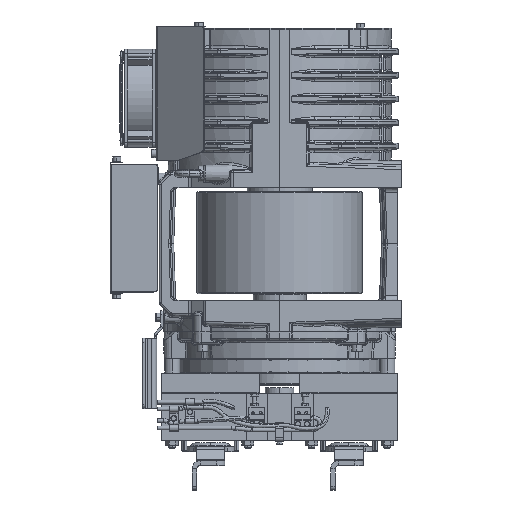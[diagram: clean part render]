
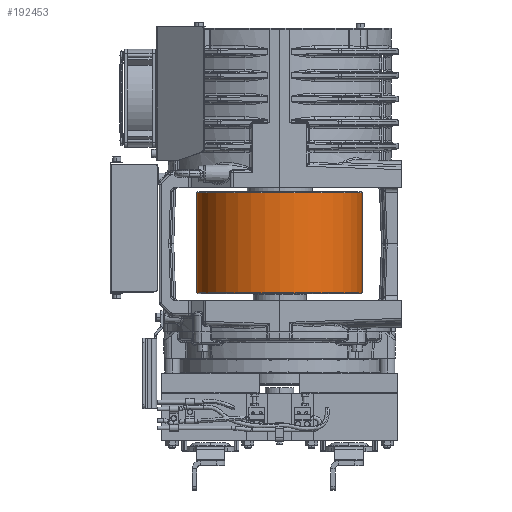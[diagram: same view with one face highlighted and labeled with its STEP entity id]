
A CAD part, left-side view. The second image highlights one B-rep face of the part: STEP entity #192453.
In plain terms, the highlighted cylindrical face has radius 101.5 mm (diameter 203 mm), a partial arc.
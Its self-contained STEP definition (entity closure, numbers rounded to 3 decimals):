
#185768=CARTESIAN_POINT('',(0.,0.,-69.));
#185769=DIRECTION('',(0.,0.,1.));
#185770=DIRECTION('',(0.,1.,0.));
#185771=AXIS2_PLACEMENT_3D('',#185768,#185769,#185770);
#185786=DIRECTION('',(0.,0.,1.));
#185787=VECTOR('',#185786,123.);
#185788=CARTESIAN_POINT('',(0.,-101.5,-69.));
#185789=LINE('',#185788,#185787);
#185790=DIRECTION('',(0.,0.,1.));
#185791=VECTOR('',#185790,123.);
#185792=CARTESIAN_POINT('',(0.,101.5,-69.));
#185793=LINE('',#185792,#185791);
#185794=CARTESIAN_POINT('',(0.,0.,54.));
#185795=DIRECTION('',(0.,0.,-1.));
#185796=DIRECTION('',(0.,-1.,0.));
#185797=AXIS2_PLACEMENT_3D('',#185794,#185795,#185796);
#189123=CARTESIAN_POINT('',(0.,101.5,54.));
#189124=VERTEX_POINT('',#189123);
#189125=CARTESIAN_POINT('',(0.,-101.5,54.));
#189126=VERTEX_POINT('',#189125);
#189127=CARTESIAN_POINT('',(0.,101.5,-69.));
#189128=CARTESIAN_POINT('',(0.,-101.5,-69.));
#189129=VERTEX_POINT('',#189127);
#189130=VERTEX_POINT('',#189128);
#192441=CARTESIAN_POINT('',(0.,0.,-77.));
#192442=DIRECTION('',(0.,0.,1.));
#192443=DIRECTION('',(0.,1.,0.));
#192444=AXIS2_PLACEMENT_3D('',#192441,#192442,#192443);
#192445=CYLINDRICAL_SURFACE('',#192444,101.5);
#192446=ORIENTED_EDGE('',*,*,#192406,.F.);
#192447=ORIENTED_EDGE('',*,*,#192436,.T.);
#192449=ORIENTED_EDGE('',*,*,#192448,.F.);
#192450=ORIENTED_EDGE('',*,*,#192432,.F.);
#192451=EDGE_LOOP('',(#192446,#192447,#192449,#192450));
#192452=FACE_OUTER_BOUND('',#192451,.F.);
#192453=ADVANCED_FACE('',(#192452),#192445,.T.);
#185772=CIRCLE('',#185771,101.5);
#185798=CIRCLE('',#185797,101.5);
#192406=EDGE_CURVE('',#189129,#189130,#185772,.T.);
#192432=EDGE_CURVE('',#189130,#189126,#185789,.T.);
#192436=EDGE_CURVE('',#189129,#189124,#185793,.T.);
#192448=EDGE_CURVE('',#189126,#189124,#185798,.T.);
